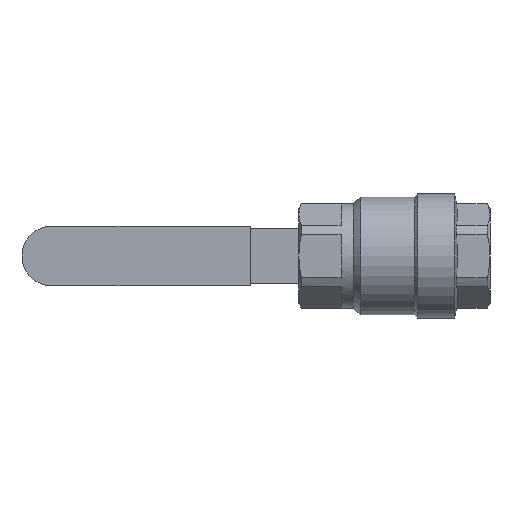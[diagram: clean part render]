
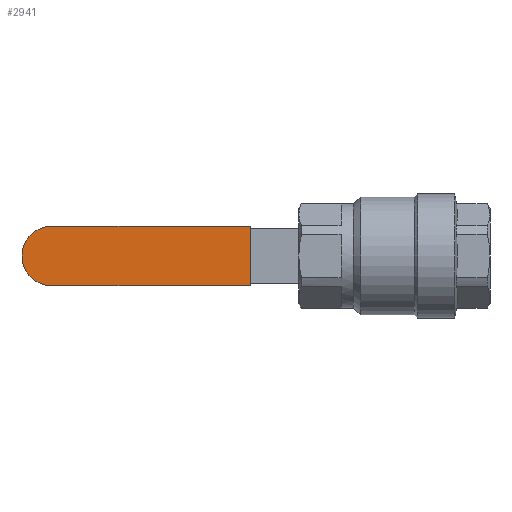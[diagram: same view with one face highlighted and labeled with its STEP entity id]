
A CAD part, front view. The second image highlights one B-rep face of the part: STEP entity #2941.
In plain terms, the highlighted planar face has unit normal (0, -1, 0).
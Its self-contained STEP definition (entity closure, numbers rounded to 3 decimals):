
#215 = DIRECTION ( 'NONE',  ( 0., -1., 0. ) ) ;
#254 = DIRECTION ( 'NONE',  ( 1., 0., 0. ) ) ;
#447 = DIRECTION ( 'NONE',  ( 1., 0., 0. ) ) ;
#448 = CARTESIAN_POINT ( 'NONE',  ( -58., 66.7, -12. ) ) ;
#458 = DIRECTION ( 'NONE',  ( 0., 1., 0. ) ) ;
#505 = ORIENTED_EDGE ( 'NONE', *, *, #1171, .T. ) ;
#669 = EDGE_LOOP ( 'NONE', ( #1153, #2963, #505, #1873 ) ) ;
#705 = LINE ( 'NONE', #2469, #2928 ) ;
#742 = DIRECTION ( 'NONE',  ( 0., 0., -1. ) ) ;
#916 = VECTOR ( 'NONE', #254, 1000. ) ;
#1153 = ORIENTED_EDGE ( 'NONE', *, *, #2120, .F. ) ;
#1171 = EDGE_CURVE ( 'NONE', #1778, #3801, #1667, .T. ) ;
#1264 = AXIS2_PLACEMENT_3D ( 'NONE', #1974, #215, #2255 ) ;
#1323 = LINE ( 'NONE', #3349, #2096 ) ;
#1534 = CARTESIAN_POINT ( 'NONE',  ( -58., 66.7, 12. ) ) ;
#1667 = LINE ( 'NONE', #3162, #916 ) ;
#1748 = VERTEX_POINT ( 'NONE', #1921 ) ;
#1778 = VERTEX_POINT ( 'NONE', #3397 ) ;
#1815 = EDGE_CURVE ( 'NONE', #1748, #1778, #2970, .T. ) ;
#1873 = ORIENTED_EDGE ( 'NONE', *, *, #2857, .F. ) ;
#1921 = CARTESIAN_POINT ( 'NONE',  ( -138., 66.7, 12. ) ) ;
#1925 = DIRECTION ( 'NONE',  ( 0., 0., 1. ) ) ;
#1974 = CARTESIAN_POINT ( 'NONE',  ( -138., 66.7, 0. ) ) ;
#2096 = VECTOR ( 'NONE', #742, 1000. ) ;
#2120 = EDGE_CURVE ( 'NONE', #1748, #3077, #705, .T. ) ;
#2255 = DIRECTION ( 'NONE',  ( 0., 0., 1. ) ) ;
#2469 = CARTESIAN_POINT ( 'NONE',  ( -150., 66.7, 12. ) ) ;
#2857 = EDGE_CURVE ( 'NONE', #3077, #3801, #1323, .T. ) ;
#2928 = VECTOR ( 'NONE', #447, 1000. ) ;
#2941 = ADVANCED_FACE ( 'NONE', ( #3366 ), #3680, .F. ) ;
#2963 = ORIENTED_EDGE ( 'NONE', *, *, #1815, .T. ) ;
#2970 = CIRCLE ( 'NONE', #1264, 12. ) ;
#2998 = AXIS2_PLACEMENT_3D ( 'NONE', #3371, #458, #1925 ) ;
#3077 = VERTEX_POINT ( 'NONE', #1534 ) ;
#3162 = CARTESIAN_POINT ( 'NONE',  ( -150., 66.7, -12. ) ) ;
#3349 = CARTESIAN_POINT ( 'NONE',  ( -58., 66.7, 12. ) ) ;
#3366 = FACE_OUTER_BOUND ( 'NONE', #669, .T. ) ;
#3371 = CARTESIAN_POINT ( 'NONE',  ( -150., 66.7, 12. ) ) ;
#3397 = CARTESIAN_POINT ( 'NONE',  ( -138., 66.7, -12. ) ) ;
#3680 = PLANE ( 'NONE',  #2998 ) ;
#3801 = VERTEX_POINT ( 'NONE', #448 ) ;
